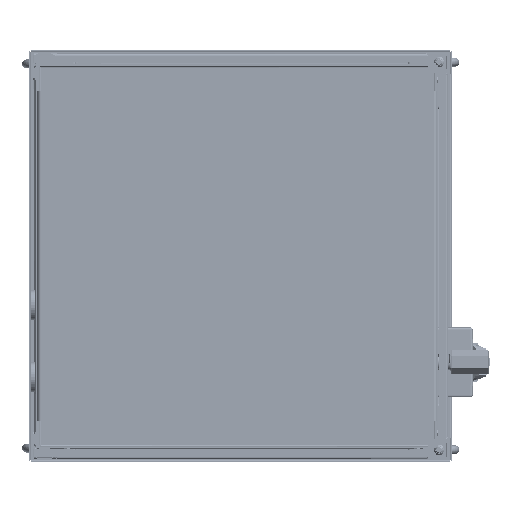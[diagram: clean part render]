
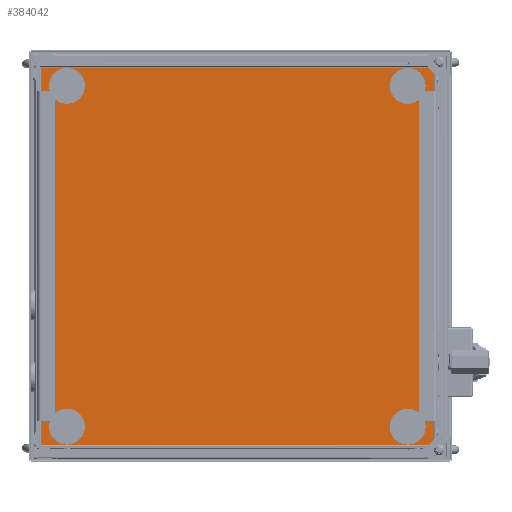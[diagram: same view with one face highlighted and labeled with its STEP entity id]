
A CAD part, front view. The second image highlights one B-rep face of the part: STEP entity #384042.
In plain terms, the highlighted planar face has unit normal (0, -1, 0) as drawn and (0, 0, 1) by its records, which use the part's own axes.
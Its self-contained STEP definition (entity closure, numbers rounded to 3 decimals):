
#8708 = DIRECTION ( 'NONE',  ( -1., 0., 0. ) ) ;
#12082 = VECTOR ( 'NONE', #293299, 1000. ) ;
#14380 = DIRECTION ( 'NONE',  ( 0.707, -0.707, 0. ) ) ;
#16065 = CIRCLE ( 'NONE', #73164, 5.5 ) ;
#17898 = DIRECTION ( 'NONE',  ( 1., 0., 0. ) ) ;
#23545 = DIRECTION ( 'NONE',  ( 0., 0., 1. ) ) ;
#24073 = LINE ( 'NONE', #156544, #12082 ) ;
#24357 = DIRECTION ( 'NONE',  ( 1., 0., 0. ) ) ;
#26561 = ORIENTED_EDGE ( 'NONE', *, *, #253615, .F. ) ;
#35115 = VERTEX_POINT ( 'NONE', #283663 ) ;
#35441 = VECTOR ( 'NONE', #17898, 1000. ) ;
#36022 = FACE_BOUND ( 'NONE', #436837, .T. ) ;
#36095 = DIRECTION ( 'NONE',  ( 0., 0., 1. ) ) ;
#37930 = EDGE_LOOP ( 'NONE', ( #401836, #166460 ) ) ;
#41039 = AXIS2_PLACEMENT_3D ( 'NONE', #338880, #172877, #412846 ) ;
#43718 = CARTESIAN_POINT ( 'NONE',  ( 195.5, 190., 2. ) ) ;
#44009 = CARTESIAN_POINT ( 'NONE',  ( 211.493, -219., 2. ) ) ;
#52870 = ORIENTED_EDGE ( 'NONE', *, *, #300562, .F. ) ;
#56015 = LINE ( 'NONE', #358901, #35441 ) ;
#62225 = CARTESIAN_POINT ( 'NONE',  ( -204.2, -219., 2. ) ) ;
#73164 = AXIS2_PLACEMENT_3D ( 'NONE', #179246, #412603, #8708 ) ;
#73425 = AXIS2_PLACEMENT_3D ( 'NONE', #76371, #36095, #177340 ) ;
#74764 = DIRECTION ( 'NONE',  ( 0., 0., 1. ) ) ;
#74941 = AXIS2_PLACEMENT_3D ( 'NONE', #200827, #342037, #133502 ) ;
#76371 = CARTESIAN_POINT ( 'NONE',  ( 190., 190., 2. ) ) ;
#77734 = EDGE_CURVE ( 'NONE', #129340, #372796, #243599, .T. ) ;
#82837 = EDGE_CURVE ( 'NONE', #250812, #123400, #225257, .T. ) ;
#103966 = CARTESIAN_POINT ( 'NONE',  ( -190., -190., 2. ) ) ;
#105306 = CARTESIAN_POINT ( 'NONE',  ( -195.5, 190., 2. ) ) ;
#109508 = CARTESIAN_POINT ( 'NONE',  ( 184.5, 190., 2. ) ) ;
#110471 = CIRCLE ( 'NONE', #74941, 5.5 ) ;
#111809 = AXIS2_PLACEMENT_3D ( 'NONE', #228508, #224131, #24357 ) ;
#117018 = AXIS2_PLACEMENT_3D ( 'NONE', #103966, #74764, #297552 ) ;
#123400 = VERTEX_POINT ( 'NONE', #438969 ) ;
#129340 = VERTEX_POINT ( 'NONE', #225513 ) ;
#133502 = DIRECTION ( 'NONE',  ( -1., 0., 0. ) ) ;
#136010 = CARTESIAN_POINT ( 'NONE',  ( 210.2, -213., 2. ) ) ;
#136183 = VECTOR ( 'NONE', #14380, 1000. ) ;
#136322 = EDGE_LOOP ( 'NONE', ( #224746, #280083 ) ) ;
#139461 = DIRECTION ( 'NONE',  ( 1., 0., 0. ) ) ;
#143897 = CARTESIAN_POINT ( 'NONE',  ( 190., -190., 2. ) ) ;
#151575 = CARTESIAN_POINT ( 'NONE',  ( -210.2, 219., 2. ) ) ;
#156544 = CARTESIAN_POINT ( 'NONE',  ( 210.2, 220.293, 2. ) ) ;
#160423 = DIRECTION ( 'NONE',  ( 1., 0., 0. ) ) ;
#166460 = ORIENTED_EDGE ( 'NONE', *, *, #82837, .F. ) ;
#168429 = PLANE ( 'NONE',  #41039 ) ;
#172723 = EDGE_CURVE ( 'NONE', #343334, #436731, #16065, .T. ) ;
#172877 = DIRECTION ( 'NONE',  ( 0., 0., -1. ) ) ;
#175000 = AXIS2_PLACEMENT_3D ( 'NONE', #143897, #343600, #139461 ) ;
#177340 = DIRECTION ( 'NONE',  ( -1., 0., 0. ) ) ;
#178651 = LINE ( 'NONE', #44009, #251737 ) ;
#179246 = CARTESIAN_POINT ( 'NONE',  ( 190., 190., 2. ) ) ;
#182684 = CARTESIAN_POINT ( 'NONE',  ( -210.2, -213., 2. ) ) ;
#183987 = VECTOR ( 'NONE', #212155, 1000. ) ;
#184262 = CARTESIAN_POINT ( 'NONE',  ( -190., 190., 2. ) ) ;
#199866 = FACE_OUTER_BOUND ( 'NONE', #400998, .T. ) ;
#200827 = CARTESIAN_POINT ( 'NONE',  ( -190., -190., 2. ) ) ;
#207974 = CARTESIAN_POINT ( 'NONE',  ( -210.2, -220.293, 2. ) ) ;
#212155 = DIRECTION ( 'NONE',  ( 0.707, 0.707, 0. ) ) ;
#219043 = EDGE_CURVE ( 'NONE', #123400, #250812, #379713, .T. ) ;
#219966 = VERTEX_POINT ( 'NONE', #105306 ) ;
#224039 = CARTESIAN_POINT ( 'NONE',  ( -195.5, -190., 2. ) ) ;
#224131 = DIRECTION ( 'NONE',  ( 0., 0., 1. ) ) ;
#224746 = ORIENTED_EDGE ( 'NONE', *, *, #236790, .F. ) ;
#225257 = CIRCLE ( 'NONE', #175000, 5.5 ) ;
#225513 = CARTESIAN_POINT ( 'NONE',  ( 204.2, -219., 2. ) ) ;
#228508 = CARTESIAN_POINT ( 'NONE',  ( -190., 190., 2. ) ) ;
#236425 = EDGE_CURVE ( 'NONE', #35115, #240755, #380662, .T. ) ;
#236790 = EDGE_CURVE ( 'NONE', #422602, #219966, #266863, .T. ) ;
#240755 = VERTEX_POINT ( 'NONE', #151575 ) ;
#243599 = LINE ( 'NONE', #136010, #183987 ) ;
#244748 = EDGE_CURVE ( 'NONE', #240755, #418640, #56015, .T. ) ;
#250812 = VERTEX_POINT ( 'NONE', #286937 ) ;
#251737 = VECTOR ( 'NONE', #416453, 1000. ) ;
#253615 = EDGE_CURVE ( 'NONE', #389259, #400563, #346283, .T. ) ;
#258789 = LINE ( 'NONE', #182684, #136183 ) ;
#260344 = ORIENTED_EDGE ( 'NONE', *, *, #435334, .F. ) ;
#265777 = CARTESIAN_POINT ( 'NONE',  ( 190., -190., 2. ) ) ;
#266863 = CIRCLE ( 'NONE', #395936, 5.5 ) ;
#275534 = EDGE_LOOP ( 'NONE', ( #260344, #415282 ) ) ;
#275984 = FACE_BOUND ( 'NONE', #37930, .T. ) ;
#280083 = ORIENTED_EDGE ( 'NONE', *, *, #403133, .F. ) ;
#281166 = CIRCLE ( 'NONE', #73425, 5.5 ) ;
#283663 = CARTESIAN_POINT ( 'NONE',  ( -210.2, -213., 2. ) ) ;
#286937 = CARTESIAN_POINT ( 'NONE',  ( 184.5, -190., 2. ) ) ;
#293299 = DIRECTION ( 'NONE',  ( 0., -1., 0. ) ) ;
#295341 = VECTOR ( 'NONE', #385052, 1000. ) ;
#297552 = DIRECTION ( 'NONE',  ( -1., 0., 0. ) ) ;
#300562 = EDGE_CURVE ( 'NONE', #418640, #372796, #24073, .T. ) ;
#303081 = CARTESIAN_POINT ( 'NONE',  ( 210.2, -213., 2. ) ) ;
#307441 = FACE_BOUND ( 'NONE', #275534, .T. ) ;
#314214 = ORIENTED_EDGE ( 'NONE', *, *, #376485, .F. ) ;
#318822 = DIRECTION ( 'NONE',  ( 1., 0., 0. ) ) ;
#333386 = ORIENTED_EDGE ( 'NONE', *, *, #244748, .F. ) ;
#333942 = CIRCLE ( 'NONE', #111809, 5.5 ) ;
#338880 = CARTESIAN_POINT ( 'NONE',  ( -214.2, 223., 2. ) ) ;
#342037 = DIRECTION ( 'NONE',  ( 0., 0., 1. ) ) ;
#343334 = VERTEX_POINT ( 'NONE', #109508 ) ;
#343600 = DIRECTION ( 'NONE',  ( 0., 0., 1. ) ) ;
#344173 = AXIS2_PLACEMENT_3D ( 'NONE', #265777, #23545, #160423 ) ;
#345369 = CARTESIAN_POINT ( 'NONE',  ( 210.2, 219., 2. ) ) ;
#346283 = CIRCLE ( 'NONE', #117018, 5.5 ) ;
#358901 = CARTESIAN_POINT ( 'NONE',  ( -211.493, 219., 2. ) ) ;
#366535 = EDGE_CURVE ( 'NONE', #35115, #397859, #258789, .T. ) ;
#367187 = ORIENTED_EDGE ( 'NONE', *, *, #77734, .T. ) ;
#369199 = EDGE_CURVE ( 'NONE', #129340, #397859, #178651, .T. ) ;
#372796 = VERTEX_POINT ( 'NONE', #303081 ) ;
#376485 = EDGE_CURVE ( 'NONE', #400563, #389259, #110471, .T. ) ;
#379713 = CIRCLE ( 'NONE', #344173, 5.5 ) ;
#380662 = LINE ( 'NONE', #207974, #295341 ) ;
#382735 = CARTESIAN_POINT ( 'NONE',  ( -184.5, -190., 2. ) ) ;
#383966 = DIRECTION ( 'NONE',  ( 0., 0., 1. ) ) ;
#384042 = ADVANCED_FACE ( 'NONE', ( #307441, #439894, #36022, #275984, #199866 ), #168429, .F. ) ;
#385052 = DIRECTION ( 'NONE',  ( 0., 1., 0. ) ) ;
#389259 = VERTEX_POINT ( 'NONE', #382735 ) ;
#395936 = AXIS2_PLACEMENT_3D ( 'NONE', #184262, #383966, #318822 ) ;
#397859 = VERTEX_POINT ( 'NONE', #62225 ) ;
#400563 = VERTEX_POINT ( 'NONE', #224039 ) ;
#400998 = EDGE_LOOP ( 'NONE', ( #439933, #441126, #411695, #367187, #52870, #333386 ) ) ;
#401836 = ORIENTED_EDGE ( 'NONE', *, *, #219043, .F. ) ;
#403133 = EDGE_CURVE ( 'NONE', #219966, #422602, #333942, .T. ) ;
#411695 = ORIENTED_EDGE ( 'NONE', *, *, #369199, .F. ) ;
#412603 = DIRECTION ( 'NONE',  ( 0., 0., 1. ) ) ;
#412846 = DIRECTION ( 'NONE',  ( -1., 0., 0. ) ) ;
#415282 = ORIENTED_EDGE ( 'NONE', *, *, #172723, .F. ) ;
#416453 = DIRECTION ( 'NONE',  ( -1., 0., 0. ) ) ;
#418640 = VERTEX_POINT ( 'NONE', #345369 ) ;
#422602 = VERTEX_POINT ( 'NONE', #440337 ) ;
#435334 = EDGE_CURVE ( 'NONE', #436731, #343334, #281166, .T. ) ;
#436731 = VERTEX_POINT ( 'NONE', #43718 ) ;
#436837 = EDGE_LOOP ( 'NONE', ( #26561, #314214 ) ) ;
#438969 = CARTESIAN_POINT ( 'NONE',  ( 195.5, -190., 2. ) ) ;
#439894 = FACE_BOUND ( 'NONE', #136322, .T. ) ;
#439933 = ORIENTED_EDGE ( 'NONE', *, *, #236425, .F. ) ;
#440337 = CARTESIAN_POINT ( 'NONE',  ( -184.5, 190., 2. ) ) ;
#441126 = ORIENTED_EDGE ( 'NONE', *, *, #366535, .T. ) ;
